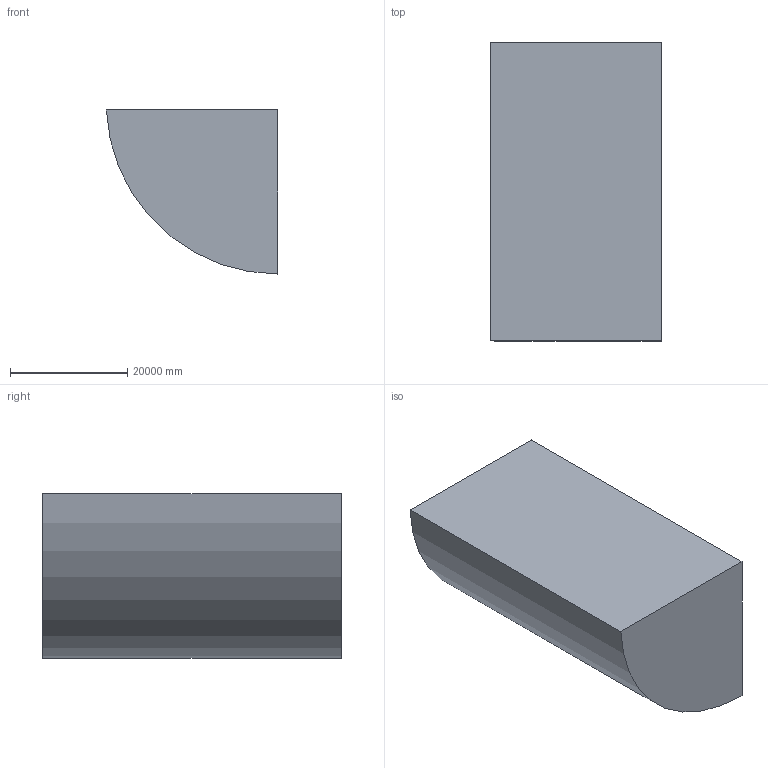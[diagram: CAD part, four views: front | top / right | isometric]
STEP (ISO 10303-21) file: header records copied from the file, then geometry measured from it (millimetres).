
FILE_DESCRIPTION((''),'2;1');
FILE_NAME('KAMMER_V1_ANP_EINVIERTEL_060721','2006-07-24T',('muellers'),(''),'PRO/ENGINEER BY PARAMETRIC TECHNOLOGY CORPORATION, 2006010','PRO/ENGINEER BY PARAMETRIC TECHNOLOGY CORPORATION, 2006010','');
FILE_SCHEMA(('CONFIG_CONTROL_DESIGN'));
Length unit declared in the file: inch
Products named in the file (1): KAMMER_V1_ANP_EINVIERTEL_060721
Bounding box: 29182.38 x 50800 x 27940 mm (x, y, z)
Volume: 31827079000097.1 mm3; surface area: 6590275996 mm2
Topology: 1 solids, 1 shells, 16 faces, 40 edges, 27 vertices
Faces by surface type: bspline 9, plane 6, cylinder 1
Entity records: 770 total; most frequent: CARTESIAN_POINT 408, ORIENTED_EDGE 80, EDGE_CURVE 40, DIRECTION 35, VERTEX_POINT 27, B_SPLINE_CURVE_WITH_KNOTS 21, VECTOR 17, LINE 17
